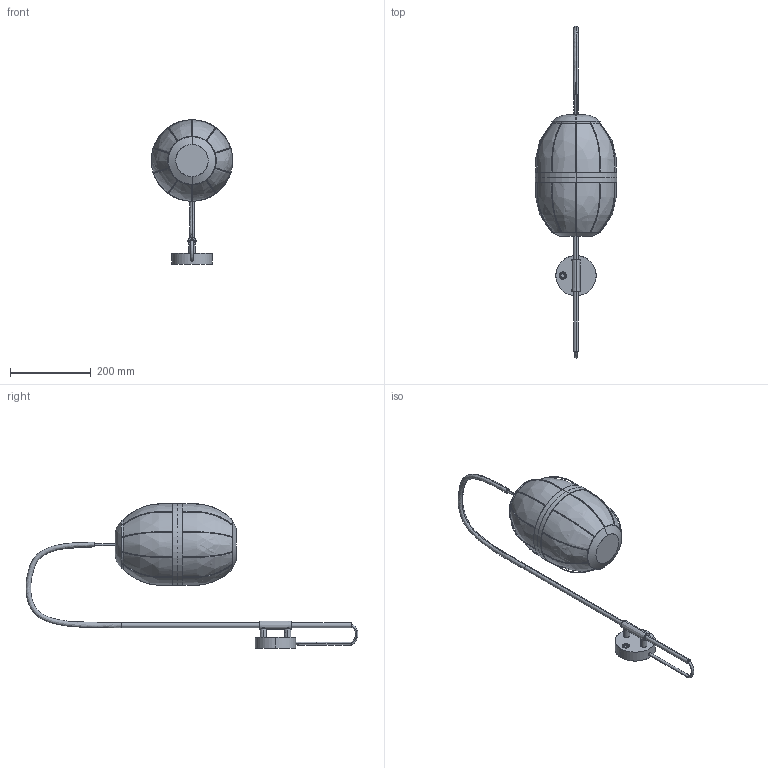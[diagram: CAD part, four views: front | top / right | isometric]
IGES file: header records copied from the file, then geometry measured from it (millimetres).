
Start section: SolidWorks IGES file using analytic representation for surfaces
Global section: file name: C:\Users\Agustin\Desktop\ENERO 2025\PIE PANTALLA TELA\2D-3D PULL_A1249\PULL_A1249.IGS; native system: SolidWorks 2018; preprocessor: SolidWorks 2018; author: Agustin; date: 250306.161614; units: millimetre
Bounding box: 202 x 822.26 x 358.05 mm (x, y, z)
Surface area: 515157.9 mm2 (no closed solid volume)
Topology: 0 solids, 0 shells, 194 faces, 3450 edges, 3450 vertices
Faces by surface type: bspline 123, revolution 71
